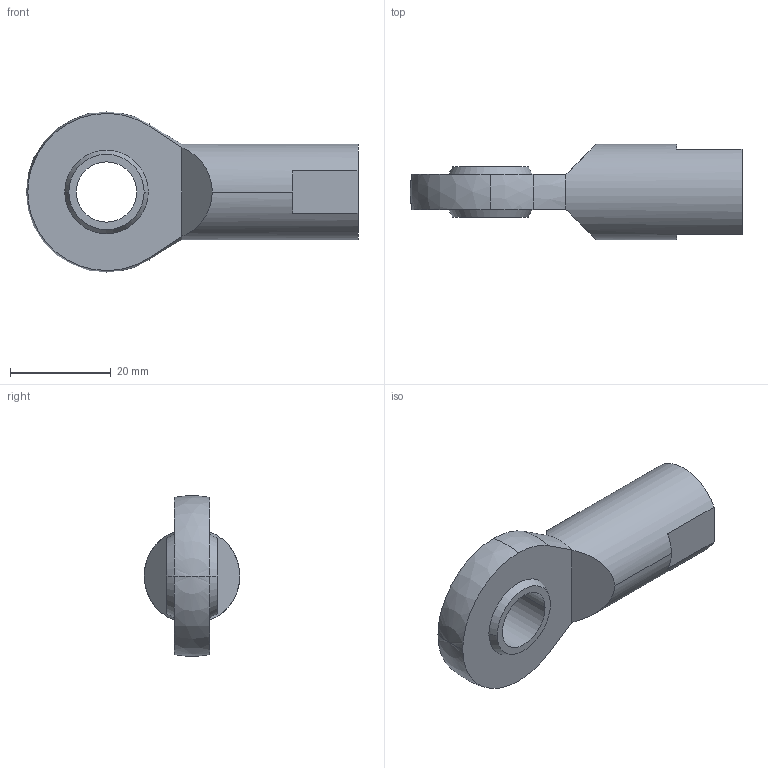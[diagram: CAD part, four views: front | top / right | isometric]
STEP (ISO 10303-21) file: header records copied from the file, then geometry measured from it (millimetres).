
FILE_DESCRIPTION(('SolidDesigner STEP Export'),'2;1');
FILE_NAME('Gelenkkopf_GIR_12_DO.stp','2002-07-26T13:22:25',(''),(''),'SolidDesigner STEP processor Version: 9.0 (March 2001)for AP214(CD)(Solid Model)','CoCreate SolidDesigner: 11.00 12-Dec-2001(C) CoCreate Software GmbH','');
FILE_SCHEMA(('AUTOMOTIVE_DESIGN_CC2 {1 2 10303 214 -1 1 5 1}'));
Length unit declared in the file: millimetre
Products named in the file (1): Gelenkkopf_GIR_12_DO
Bounding box: 66 x 19 x 31.91 mm (x, y, z)
Volume: 12293.6 mm3; surface area: 5627.5 mm2
Topology: 1 solids, 1 shells, 33 faces, 80 edges, 48 vertices
Faces by surface type: plane 11, sphere 8, cylinder 8, cone 6
Entity records: 921 total; most frequent: CARTESIAN_POINT 217, ORIENTED_EDGE 152, DIRECTION 116, EDGE_CURVE 76, VERTEX_POINT 48, AXIS2_PLACEMENT_3D 47, EDGE_LOOP 38, FACE_OUTER_BOUND 33
